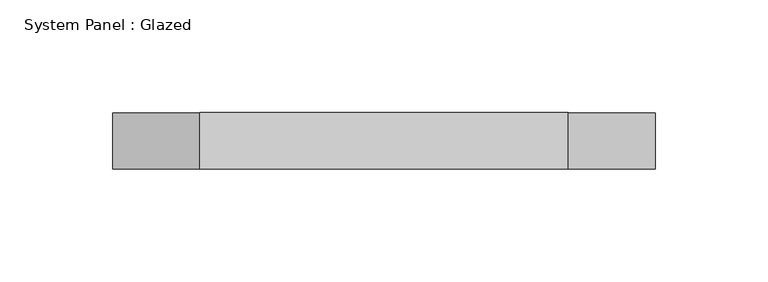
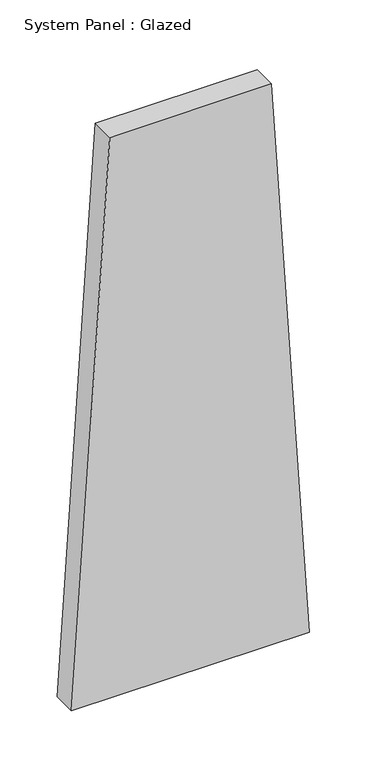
"""IFC4 building model written with IfcOpenShell, lengths in millimetres: plate geometry, System Panel : Glazed."""

from ifc_helpers import new_model, si_unit, frame, origin, place, context, project, spatial, polyline, outline, extrude, source, transform, mapped, element, save


def system_panel_glazed_d4a9f5d3(model_context):
    return source(origin(), model_context, "Body", "SweptSolid", [
        extrude(outline(polyline([(0.0, -120.1884737), (0.0, 120.1884737), (598.7626942, 81.6756702), (598.7626942, -81.6756702), (0.0, -120.1884737)])), frame((0.0, 24.5, 0.0), z_axis=(0.0, 1.0, 0.0), x_axis=(0.0, 0.0, 1.0)), (0.0, 0.0, 1.0), 25.0),
    ])


if __name__ == "__main__":
    model = new_model("IFC4")
    model_context = context("Model", 3, world=origin())
    ifc_project = project(units=[si_unit("LENGTHUNIT", "METRE", prefix="MILLI")], contexts=[model_context])
    site = spatial("IfcSite", under=ifc_project)
    building = spatial("IfcBuilding", under=site)
    placement = place(None, origin())
    system_panel_glazed_shape = system_panel_glazed_d4a9f5d3(model_context)
    element("IfcPlate", 1, ObjectType="System Panel : Glazed", at=placement, inside=building, context=model_context, shape_type="MappedRepresentation", body=[
        mapped(system_panel_glazed_shape, transform((0.0, 0.0, 0.0), x_axis=(1.0, 0.0, 0.0), y_axis=(0.0, 1.0, 0.0), z_axis=(0.0, 0.0, 1.0))),
    ])
    save(model, "model.ifc")
